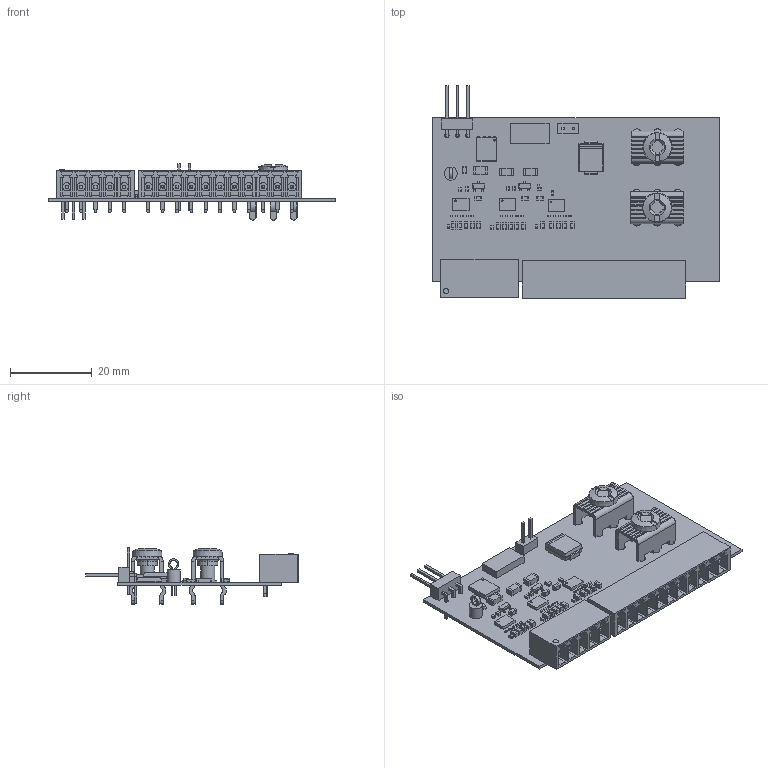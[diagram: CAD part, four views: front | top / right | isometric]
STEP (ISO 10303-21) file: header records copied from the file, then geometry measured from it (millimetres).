
FILE_DESCRIPTION(('Open CASCADE Model'),'2;1');
FILE_NAME('Open CASCADE Shape Model','2016-08-24T19:45:42',('Author'),( 'Open CASCADE'),'Open CASCADE STEP processor 6.8','Open CASCADE 6.8' ,'Unknown');
FILE_SCHEMA(('AUTOMOTIVE_DESIGN { 1 0 10303 214 1 1 1 1 }'));
Length unit declared in the file: millimetre
Products named in the file (128): PCB; Board; BAT2; Molex_395021005; Molex_395021005_frontpins; Molex_395021005_body; Molex_395021005_bottompins; 844907880; Extruded; BAT1; Molex_39502-1011; Molex_39502-1011_body; Molex_39502-1011_pins; UT1; 844908016; 844906520; UM1; JL; 844914816; 844901216; TEST; 844906928; 844907064; 844907200; D2; 844902168; 844901760; 844901488; UL1; TP_GATE1; Keystone_5005; Keystone5005_red; KeystoneCompact_wire; RLED; 844905024; 844905160; ROUT1; 844902304; 844903256; Q1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
Assembly tree (264 placements, depth 4):
  PCB
    Board
    BAT2
      Molex_395021005
        Molex_395021005_frontpins
        Molex_395021005_body
        Molex_395021005_bottompins
      844907880
        Extruded
    BAT1
      Molex_39502-1011
        Molex_39502-1011_body
        Molex_39502-1011_pins
    UT1
      844908016
        Extruded
      844906520
        Extruded
    UM1
      844908016
        Extruded
      844906520
        Extruded
    JL
      844914816
        Extruded
      844901216  x2
        Extruded
    TEST
      844906928  x3
        Extruded
      844907064  x3
        Extruded
      844907200
        Extruded
    D2
      844902168
        Extruded
      844901760
        Extruded
      844901488
        Extruded
    UL1
      844908016
        Extruded
      844906520
        Extruded
    TP_GATE1
      Keystone_5005
        Keystone5005_red
        KeystoneCompact_wire
    RLED
      844905024  x2
        Extruded
      844905160
        Extruded
    ROUT1
      844902304  x2
        Extruded
      844903256
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Bounding box: 69.98 x 51.82 x 13.7 mm (x, y, z)
Volume: 5155.6 mm3; surface area: 14569.4 mm2
Topology: 204 solids, 204 shells, 2412 faces, 5670 edges, 3692 vertices
Faces by surface type: plane 2134, cylinder 228, cone 34, torus 8, bspline 4, revolution 4
Full cylindrical faces by diameter (mm): 0.469 x1, 1.016 x3, 1.02 x3, 1.321 x16, 1.93 x12, 3.2 x1, 3.4 x2
Entity records: 102119 total; most frequent: CARTESIAN_POINT 31644, DIRECTION 12547, LINE 8357, VECTOR 8357, ORIENTED_EDGE 6610, PCURVE 6610, DEFINITIONAL_REPRESENTATION 6610, EDGE_CURVE 3305
